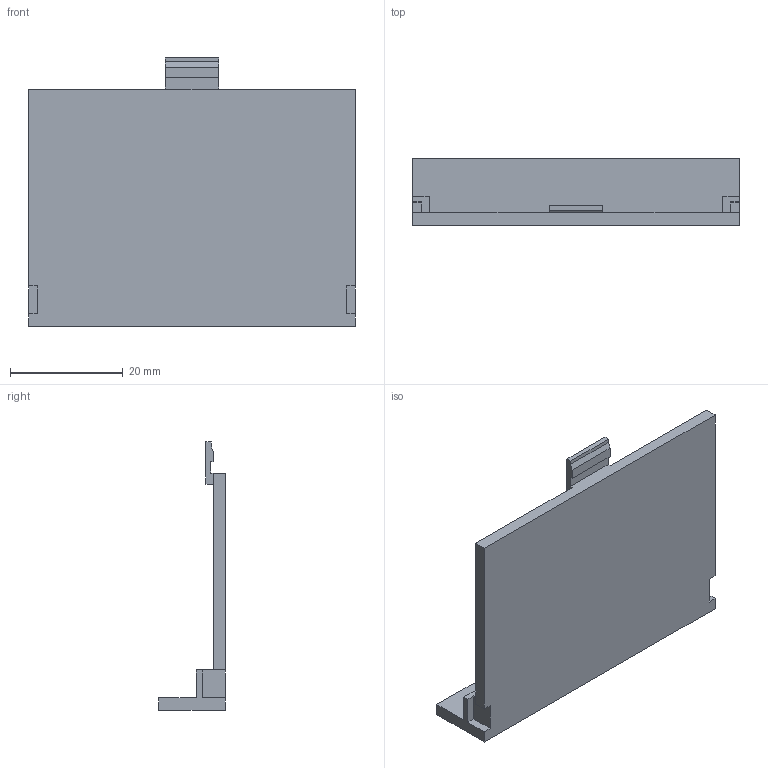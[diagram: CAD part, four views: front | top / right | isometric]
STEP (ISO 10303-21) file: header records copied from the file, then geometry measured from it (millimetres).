
FILE_DESCRIPTION (( 'STEP AP214' ), '1' );
FILE_NAME ('Tapeta PP82.STEP', '2018-01-23T11:19:33', ( 'aaa' ), ( '' ), 'SwSTEP 2.0', 'SolidWorks 2013', '' );
FILE_SCHEMA (( 'AUTOMOTIVE_DESIGN' ));
Length unit declared in the file: millimetre
Products named in the file (1): Tapeta PP82
Bounding box: 57.8 x 11.85 x 47.55 mm (x, y, z)
Volume: 6555.8 mm3; surface area: 6673.7 mm2
Topology: 1 solids, 1 shells, 34 faces, 94 edges, 62 vertices
Faces by surface type: plane 34
Entity records: 1096 total; most frequent: CARTESIAN_POINT 191, ORIENTED_EDGE 188, DIRECTION 164, LINE 94, VECTOR 94, EDGE_CURVE 94, VERTEX_POINT 62, AXIS2_PLACEMENT_3D 35
